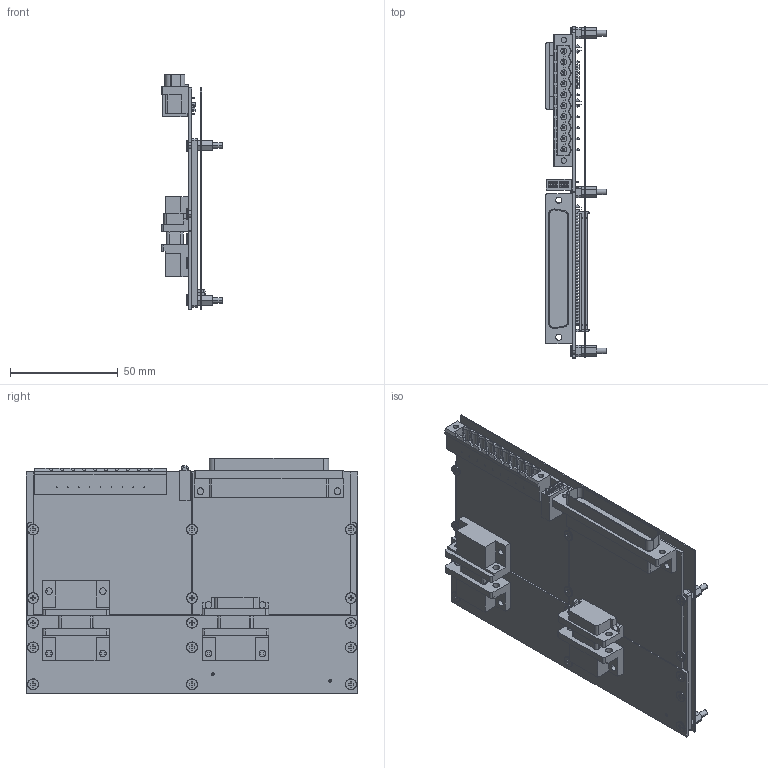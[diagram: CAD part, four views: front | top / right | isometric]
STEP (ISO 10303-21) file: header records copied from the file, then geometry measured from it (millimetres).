
FILE_DESCRIPTION((''),'2;1');
FILE_NAME('CU_NI_9693','2013-06-07T',('jbuhisan'),(''),'PRO/ENGINEER BY PARAMETRIC TECHNOLOGY CORPORATION, 2011490','PRO/ENGINEER BY PARAMETRIC TECHNOLOGY CORPORATION, 2011490','');
FILE_SCHEMA(('CONFIG_CONTROL_DESIGN'));
Products named in the file (1): CU_NI_9693
Bounding box: 28.56 x 153.67 x 109.35 mm (x, y, z)
Volume: 66195.6 mm3; surface area: 80906.3 mm2
Topology: 10 solids, 19 shells, 2512 faces, 6380 edges, 4135 vertices
Faces by surface type: plane 1738, cylinder 556, cone 107, torus 63, sphere 28, bspline 20
Entity records: 78617 total; most frequent: CARTESIAN_POINT 17000, ORIENTED_EDGE 12756, DIRECTION 12481, EDGE_CURVE 6378, VECTOR 4737, LINE 4737, VERTEX_POINT 4135, AXIS2_PLACEMENT_3D 3872
